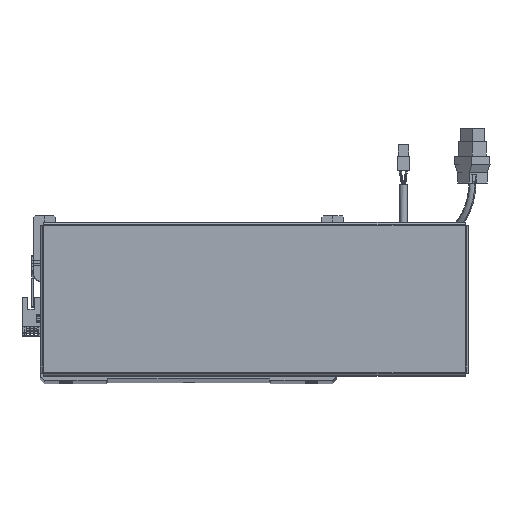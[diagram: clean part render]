
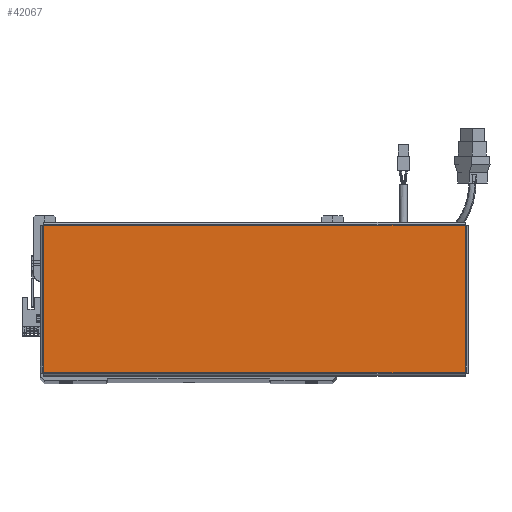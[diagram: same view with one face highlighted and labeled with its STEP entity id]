
A CAD part, top view. The second image highlights one B-rep face of the part: STEP entity #42067.
In plain terms, the highlighted planar face has unit normal (0, 0, 1).
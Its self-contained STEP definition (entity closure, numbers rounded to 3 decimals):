
#6155 = CARTESIAN_POINT ( 'NONE',  ( -156.543, -54.763, 0. ) ) ;
#9635 = ORIENTED_EDGE ( 'NONE', *, *, #69765, .T. ) ;
#12776 = EDGE_LOOP ( 'NONE', ( #17464, #62182, #9635, #71201 ) ) ;
#15589 = VECTOR ( 'NONE', #70844, 1000. ) ;
#16000 = VERTEX_POINT ( 'NONE', #49607 ) ;
#17141 = VERTEX_POINT ( 'NONE', #63272 ) ;
#17464 = ORIENTED_EDGE ( 'NONE', *, *, #72064, .T. ) ;
#22994 = VECTOR ( 'NONE', #50925, 1000. ) ;
#27526 = EDGE_CURVE ( 'NONE', #17141, #16000, #69684, .T. ) ;
#28434 = DIRECTION ( 'NONE',  ( 0., 0., 1. ) ) ;
#28543 = CARTESIAN_POINT ( 'NONE',  ( -156.513, -54.763, 0. ) ) ;
#28996 = VECTOR ( 'NONE', #57727, 1000. ) ;
#31205 = CARTESIAN_POINT ( 'NONE',  ( -156.513, 54.793, 0. ) ) ;
#32457 = CARTESIAN_POINT ( 'NONE',  ( -156.513, 54.763, 0. ) ) ;
#33424 = DIRECTION ( 'NONE',  ( 1., 0., 0. ) ) ;
#36894 = VERTEX_POINT ( 'NONE', #28543 ) ;
#39329 = VECTOR ( 'NONE', #59089, 1000. ) ;
#39472 = CARTESIAN_POINT ( 'NONE',  ( 156.543, 54.763, 0. ) ) ;
#41396 = AXIS2_PLACEMENT_3D ( 'NONE', #61852, #28434, #33424 ) ;
#42067 = ADVANCED_FACE ( 'NONE', ( #69977 ), #73564, .T. ) ;
#44128 = LINE ( 'NONE', #6155, #28996 ) ;
#45904 = LINE ( 'NONE', #31205, #15589 ) ;
#47787 = VERTEX_POINT ( 'NONE', #32457 ) ;
#49607 = CARTESIAN_POINT ( 'NONE',  ( 156.513, 54.763, 0. ) ) ;
#50925 = DIRECTION ( 'NONE',  ( -1., 0., 0. ) ) ;
#53368 = CARTESIAN_POINT ( 'NONE',  ( 156.513, -54.793, 0. ) ) ;
#56824 = LINE ( 'NONE', #39472, #22994 ) ;
#57727 = DIRECTION ( 'NONE',  ( 1., 0., 0. ) ) ;
#59089 = DIRECTION ( 'NONE',  ( 0., 1., 0. ) ) ;
#61852 = CARTESIAN_POINT ( 'NONE',  ( 0., 0., 0. ) ) ;
#62047 = EDGE_CURVE ( 'NONE', #47787, #36894, #45904, .T. ) ;
#62182 = ORIENTED_EDGE ( 'NONE', *, *, #27526, .T. ) ;
#63272 = CARTESIAN_POINT ( 'NONE',  ( 156.513, -54.763, 0. ) ) ;
#69684 = LINE ( 'NONE', #53368, #39329 ) ;
#69765 = EDGE_CURVE ( 'NONE', #16000, #47787, #56824, .T. ) ;
#69977 = FACE_OUTER_BOUND ( 'NONE', #12776, .T. ) ;
#70844 = DIRECTION ( 'NONE',  ( 0., -1., 0. ) ) ;
#71201 = ORIENTED_EDGE ( 'NONE', *, *, #62047, .T. ) ;
#72064 = EDGE_CURVE ( 'NONE', #36894, #17141, #44128, .T. ) ;
#73564 = PLANE ( 'NONE',  #41396 ) ;
